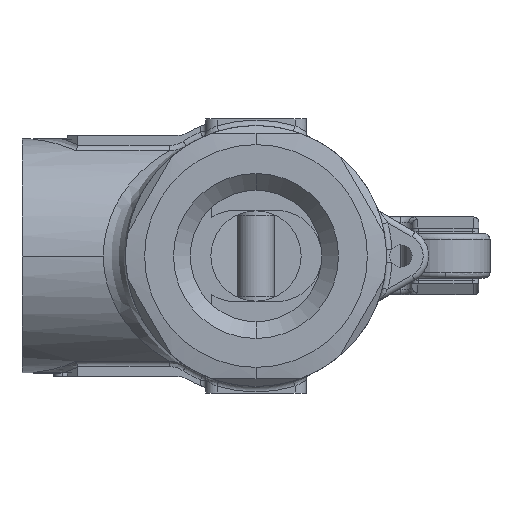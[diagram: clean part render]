
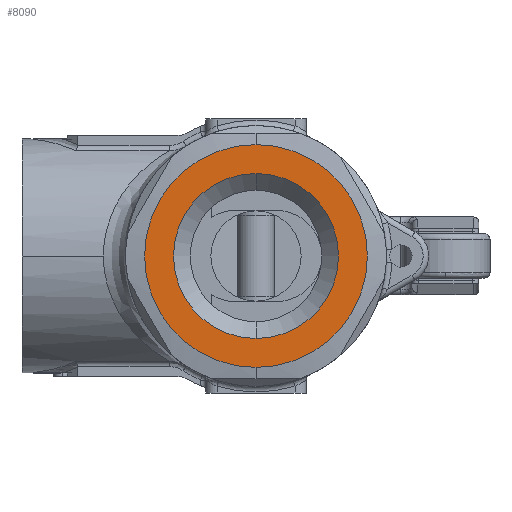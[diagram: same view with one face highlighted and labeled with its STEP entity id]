
A CAD part, front view. The second image highlights one B-rep face of the part: STEP entity #8090.
In plain terms, the highlighted planar face has unit normal (0, -1, 0).
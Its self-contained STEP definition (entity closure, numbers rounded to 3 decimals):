
#7 = DIRECTION ( 'NONE',  ( 0., -1., 0. ) ) ;
#277 = EDGE_CURVE ( 'NONE', #4393, #35913, #20445, .T. ) ;
#4030 = CARTESIAN_POINT ( 'NONE',  ( 0., 0., 7.4 ) ) ;
#4274 = AXIS2_PLACEMENT_3D ( 'NONE', #7255, #17142, #16855 ) ;
#4393 = VERTEX_POINT ( 'NONE', #29183 ) ;
#4788 = ORIENTED_EDGE ( 'NONE', *, *, #21487, .T. ) ;
#5973 = PLANE ( 'NONE',  #7554 ) ;
#6542 = DIRECTION ( 'NONE',  ( 0., 1., 0. ) ) ;
#6758 = CIRCLE ( 'NONE', #36504, 7.4 ) ;
#7255 = CARTESIAN_POINT ( 'NONE',  ( 0., 0., 0. ) ) ;
#7554 = AXIS2_PLACEMENT_3D ( 'NONE', #31802, #6542, #22503 ) ;
#8090 = ADVANCED_FACE ( 'NONE', ( #9478, #30667 ), #5973, .F. ) ;
#9190 = CARTESIAN_POINT ( 'NONE',  ( 0., 0., 0. ) ) ;
#9443 = EDGE_LOOP ( 'NONE', ( #21121, #4788 ) ) ;
#9478 = FACE_BOUND ( 'NONE', #9443, .T. ) ;
#9940 = DIRECTION ( 'NONE',  ( 0., -1., 0. ) ) ;
#13010 = EDGE_CURVE ( 'NONE', #35913, #4393, #15901, .T. ) ;
#13327 = VERTEX_POINT ( 'NONE', #27056 ) ;
#13397 = CARTESIAN_POINT ( 'NONE',  ( 0., 0., 0. ) ) ;
#13504 = CARTESIAN_POINT ( 'NONE',  ( 0., 0., 0. ) ) ;
#15901 = CIRCLE ( 'NONE', #25596, 10. ) ;
#16855 = DIRECTION ( 'NONE',  ( 0., 0., 1. ) ) ;
#17142 = DIRECTION ( 'NONE',  ( 0., 1., 0. ) ) ;
#17445 = ORIENTED_EDGE ( 'NONE', *, *, #277, .T. ) ;
#18112 = ORIENTED_EDGE ( 'NONE', *, *, #13010, .T. ) ;
#20445 = CIRCLE ( 'NONE', #36593, 10. ) ;
#21121 = ORIENTED_EDGE ( 'NONE', *, *, #41852, .T. ) ;
#21446 = VERTEX_POINT ( 'NONE', #4030 ) ;
#21487 = EDGE_CURVE ( 'NONE', #21446, #13327, #6758, .T. ) ;
#22503 = DIRECTION ( 'NONE',  ( 0., 0., 1. ) ) ;
#23751 = EDGE_LOOP ( 'NONE', ( #18112, #17445 ) ) ;
#25596 = AXIS2_PLACEMENT_3D ( 'NONE', #13504, #9940, #32937 ) ;
#26299 = CIRCLE ( 'NONE', #4274, 7.4 ) ;
#27056 = CARTESIAN_POINT ( 'NONE',  ( 0., 0., -7.4 ) ) ;
#29183 = CARTESIAN_POINT ( 'NONE',  ( 0., 0., -10. ) ) ;
#29567 = DIRECTION ( 'NONE',  ( 0., 0., 1. ) ) ;
#30667 = FACE_OUTER_BOUND ( 'NONE', #23751, .T. ) ;
#31802 = CARTESIAN_POINT ( 'NONE',  ( 0., 0., 0. ) ) ;
#32937 = DIRECTION ( 'NONE',  ( 0., 0., -1. ) ) ;
#35876 = DIRECTION ( 'NONE',  ( 0., 1., 0. ) ) ;
#35913 = VERTEX_POINT ( 'NONE', #41802 ) ;
#36504 = AXIS2_PLACEMENT_3D ( 'NONE', #13397, #35876, #29567 ) ;
#36593 = AXIS2_PLACEMENT_3D ( 'NONE', #9190, #7, #38485 ) ;
#38485 = DIRECTION ( 'NONE',  ( 0., 0., -1. ) ) ;
#41802 = CARTESIAN_POINT ( 'NONE',  ( 0., 0., 10. ) ) ;
#41852 = EDGE_CURVE ( 'NONE', #13327, #21446, #26299, .T. ) ;
